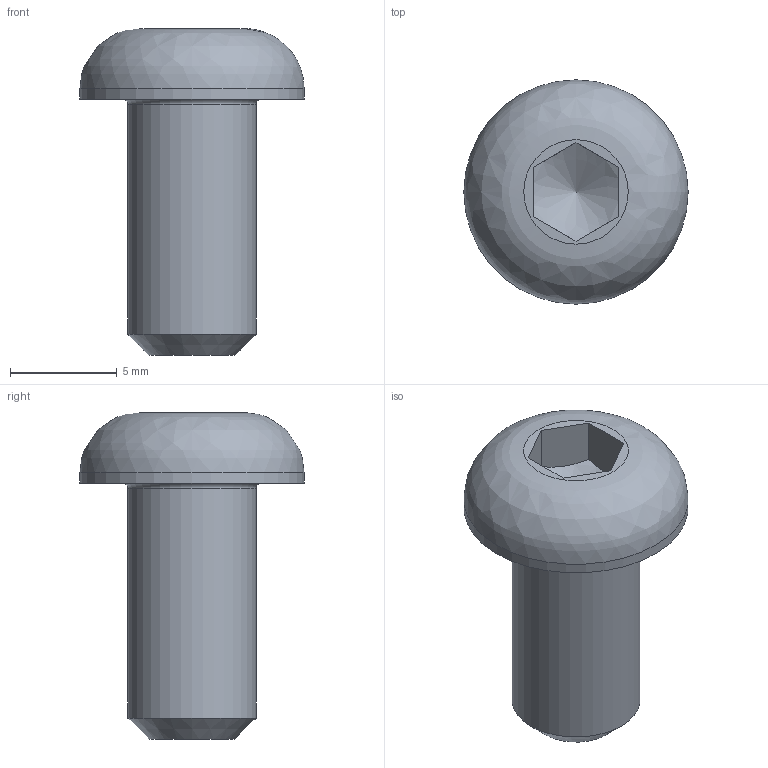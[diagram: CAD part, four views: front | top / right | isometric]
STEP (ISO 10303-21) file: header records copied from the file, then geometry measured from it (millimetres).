
FILE_DESCRIPTION(/* description */ (''),/* implementation_level */ '2;1');
FILE_NAME(/* name */ 'C:\Users\unitec\Documents\Inventor\各種小物\JIS\JIS B 1174 六角穴付きボタンボルト\BASE\M6\M6x12.stp',/* time_stamp */ '2015-07-21T18:23:29+09:00',/* author */ ('unitec'),/* organization */ (''),/* preprocessor_version */ 'ST-DEVELOPER v15.2',/* originating_system */ 'Autodesk Inventor 2014',/* authorisation */ '');
FILE_SCHEMA (('AUTOMOTIVE_DESIGN { 1 0 10303 214 3 1 1 }'));
Length unit declared in the file: millimetre
Products named in the file (1): M6x12
Bounding box: 10.5 x 10.5 x 15.3 mm (x, y, z)
Volume: 531.8 mm3; surface area: 483.3 mm2
Topology: 1 solids, 1 shells, 15 faces, 35 edges, 23 vertices
Faces by surface type: plane 9, cylinder 2, cone 2, torus 1, bspline 1
Full cylindrical faces by diameter (mm): 6 x1, 10.5 x1
Entity records: 423 total; most frequent: CARTESIAN_POINT 105, DIRECTION 60, ORIENTED_EDGE 56, EDGE_CURVE 28, AXIS2_PLACEMENT_3D 24, EDGE_LOOP 21, VERTEX_POINT 21, FACE_OUTER_BOUND 15
